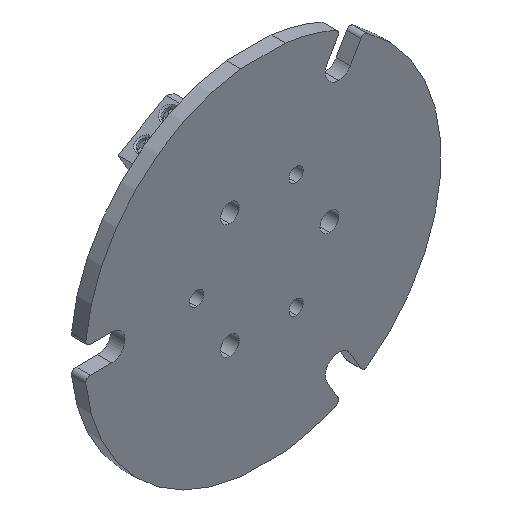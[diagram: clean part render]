
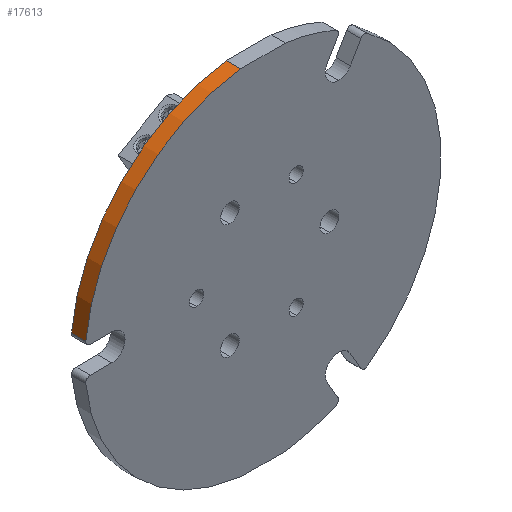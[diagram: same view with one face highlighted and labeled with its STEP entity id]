
A CAD part, isometric view. The second image highlights one B-rep face of the part: STEP entity #17613.
In plain terms, the highlighted cylindrical face has radius 20 mm (diameter 40 mm), a partial arc.
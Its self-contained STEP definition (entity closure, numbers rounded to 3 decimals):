
#1475 = CIRCLE ( 'NONE', #16283, 20. ) ;
#10210 = CARTESIAN_POINT ( 'NONE',  ( 67.901, 0., -31.651 ) ) ;
#10687 = DIRECTION ( 'NONE',  ( 0., 1., 0. ) ) ;
#15096 = LINE ( 'NONE', #58970, #65164 ) ;
#16283 = AXIS2_PLACEMENT_3D ( 'NONE', #47084, #40716, #22983 ) ;
#17613 = ADVANCED_FACE ( 'NONE', ( #38039 ), #18683, .T. ) ;
#18683 = CYLINDRICAL_SURFACE ( 'NONE', #45625, 20. ) ;
#19205 = VERTEX_POINT ( 'NONE', #74360 ) ;
#22983 = DIRECTION ( 'NONE',  ( 0., 0., 1. ) ) ;
#27077 = EDGE_CURVE ( 'NONE', #19205, #52857, #48982, .T. ) ;
#32247 = ORIENTED_EDGE ( 'NONE', *, *, #36501, .T. ) ;
#33373 = CARTESIAN_POINT ( 'NONE',  ( 85.295, 0., -13.859 ) ) ;
#33630 = VECTOR ( 'NONE', #66470, 1000. ) ;
#36501 = EDGE_CURVE ( 'NONE', #19205, #44657, #15096, .T. ) ;
#38039 = FACE_OUTER_BOUND ( 'NONE', #76568, .T. ) ;
#38313 = ORIENTED_EDGE ( 'NONE', *, *, #57705, .F. ) ;
#40716 = DIRECTION ( 'NONE',  ( 0., 1., 0. ) ) ;
#41438 = CARTESIAN_POINT ( 'NONE',  ( 85.295, 1.6, -13.859 ) ) ;
#41890 = CARTESIAN_POINT ( 'NONE',  ( 85.295, 1.6, -13.859 ) ) ;
#43116 = CARTESIAN_POINT ( 'NONE',  ( 87.795, 1.6, -33.702 ) ) ;
#44410 = DIRECTION ( 'NONE',  ( 0., 0., -1. ) ) ;
#44657 = VERTEX_POINT ( 'NONE', #10210 ) ;
#45625 = AXIS2_PLACEMENT_3D ( 'NONE', #62664, #83328, #44410 ) ;
#47084 = CARTESIAN_POINT ( 'NONE',  ( 87.795, 0., -33.702 ) ) ;
#48982 = CIRCLE ( 'NONE', #66620, 20. ) ;
#49031 = EDGE_CURVE ( 'NONE', #44657, #60622, #1475, .T. ) ;
#52857 = VERTEX_POINT ( 'NONE', #41890 ) ;
#53467 = DIRECTION ( 'NONE',  ( 0., -1., 0. ) ) ;
#57705 = EDGE_CURVE ( 'NONE', #52857, #60622, #60059, .T. ) ;
#58970 = CARTESIAN_POINT ( 'NONE',  ( 67.901, 1.6, -31.651 ) ) ;
#60059 = LINE ( 'NONE', #41438, #33630 ) ;
#60622 = VERTEX_POINT ( 'NONE', #33373 ) ;
#62664 = CARTESIAN_POINT ( 'NONE',  ( 87.795, 1.6, -33.702 ) ) ;
#65164 = VECTOR ( 'NONE', #53467, 1000. ) ;
#65503 = ORIENTED_EDGE ( 'NONE', *, *, #27077, .F. ) ;
#66470 = DIRECTION ( 'NONE',  ( 0., -1., 0. ) ) ;
#66620 = AXIS2_PLACEMENT_3D ( 'NONE', #43116, #10687, #82046 ) ;
#74360 = CARTESIAN_POINT ( 'NONE',  ( 67.901, 1.6, -31.651 ) ) ;
#76568 = EDGE_LOOP ( 'NONE', ( #82093, #38313, #65503, #32247 ) ) ;
#82046 = DIRECTION ( 'NONE',  ( 0., 0., 1. ) ) ;
#82093 = ORIENTED_EDGE ( 'NONE', *, *, #49031, .T. ) ;
#83328 = DIRECTION ( 'NONE',  ( 0., -1., 0. ) ) ;
